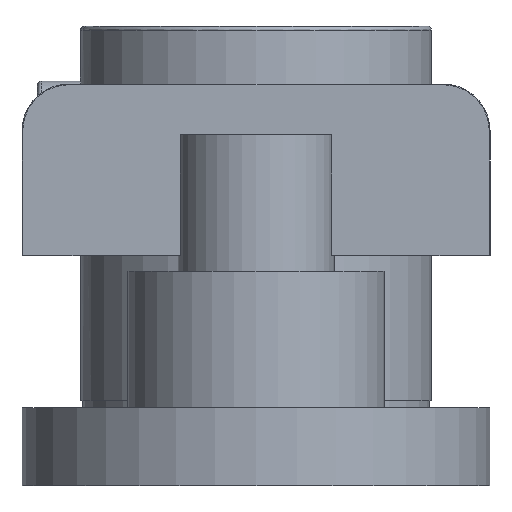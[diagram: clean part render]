
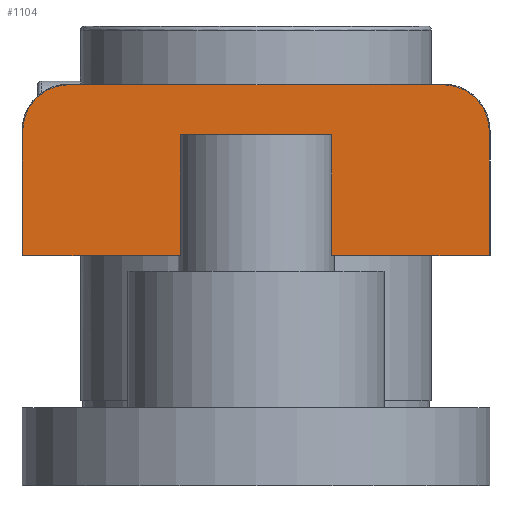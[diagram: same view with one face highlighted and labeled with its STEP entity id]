
A CAD part, left-side view. The second image highlights one B-rep face of the part: STEP entity #1104.
In plain terms, the highlighted planar face has unit normal (-1, 0, 0).
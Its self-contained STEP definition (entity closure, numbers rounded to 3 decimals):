
#717=CARTESIAN_POINT('',(-92.5,9.682,23.5));
#718=VERTEX_POINT('',#717);
#726=CARTESIAN_POINT('',(-92.5,29.9,23.5));
#727=VERTEX_POINT('',#726);
#728=CARTESIAN_POINT('',(-92.5,29.9,23.5));
#729=DIRECTION('',(0.0,-1.0,0.0));
#730=VECTOR('',#729,20.218);
#731=LINE('',#728,#730);
#732=EDGE_CURVE('',#727,#718,#731,.T.);
#748=CARTESIAN_POINT('',(-92.5,-9.682,23.5));
#749=VERTEX_POINT('',#748);
#750=CARTESIAN_POINT('',(-92.5,-29.9,23.5));
#751=VERTEX_POINT('',#750);
#752=CARTESIAN_POINT('',(-92.5,-9.682,23.5));
#753=DIRECTION('',(0.0,-1.0,0.0));
#754=VECTOR('',#753,20.218);
#755=LINE('',#752,#754);
#756=EDGE_CURVE('',#749,#751,#755,.T.);
#789=CARTESIAN_POINT('',(-92.5,29.9,39.5));
#790=VERTEX_POINT('',#789);
#791=CARTESIAN_POINT('',(-92.5,29.9,39.5));
#792=DIRECTION('',(0.0,0.0,-1.0));
#793=VECTOR('',#792,16.0);
#794=LINE('',#791,#793);
#795=EDGE_CURVE('',#790,#727,#794,.T.);
#1023=CARTESIAN_POINT('',(-92.5,-29.9,39.5));
#1024=VERTEX_POINT('',#1023);
#1032=CARTESIAN_POINT('',(-92.5,-24.,45.4));
#1033=VERTEX_POINT('',#1032);
#1040=CARTESIAN_POINT('',(-92.5,-24.0,39.5));
#1041=DIRECTION('',(-1.0,0.0,0.0));
#1042=DIRECTION('',(0.0,-1.0,0.0));
#1043=AXIS2_PLACEMENT_3D('',#1040,#1041,#1042);
#1044=CIRCLE('',#1043,5.9);
#1045=EDGE_CURVE('',#1024,#1033,#1044,.T.);
#1050=CARTESIAN_POINT('',(-92.5,32.89,22.405));
#1051=DIRECTION('',(-1.0,0.0,0.0));
#1052=DIRECTION('',(0.0,-1.0,0.0));
#1053=AXIS2_PLACEMENT_3D('',#1050,#1051,#1052);
#1054=PLANE('',#1053);
#1055=ORIENTED_EDGE('',*,*,#732,.T.);
#1056=CARTESIAN_POINT('',(-92.5,9.682,39.0));
#1057=VERTEX_POINT('',#1056);
#1058=CARTESIAN_POINT('',(-92.5,9.682,39.0));
#1059=DIRECTION('',(0.0,0.0,-1.0));
#1060=VECTOR('',#1059,15.5);
#1061=LINE('',#1058,#1060);
#1062=EDGE_CURVE('',#1057,#718,#1061,.T.);
#1063=ORIENTED_EDGE('',*,*,#1062,.F.);
#1064=CARTESIAN_POINT('',(-92.5,-9.682,39.0));
#1065=VERTEX_POINT('',#1064);
#1066=CARTESIAN_POINT('',(-92.5,-9.682,39.0));
#1067=DIRECTION('',(0.0,1.0,0.0));
#1068=VECTOR('',#1067,19.365);
#1069=LINE('',#1066,#1068);
#1070=EDGE_CURVE('',#1065,#1057,#1069,.T.);
#1071=ORIENTED_EDGE('',*,*,#1070,.F.);
#1072=CARTESIAN_POINT('',(-92.5,-9.682,39.0));
#1073=DIRECTION('',(0.0,0.0,-1.0));
#1074=VECTOR('',#1073,15.5);
#1075=LINE('',#1072,#1074);
#1076=EDGE_CURVE('',#1065,#749,#1075,.T.);
#1077=ORIENTED_EDGE('',*,*,#1076,.T.);
#1078=ORIENTED_EDGE('',*,*,#756,.T.);
#1079=CARTESIAN_POINT('',(-92.5,-29.9,23.5));
#1080=DIRECTION('',(0.0,0.0,1.0));
#1081=VECTOR('',#1080,16.0);
#1082=LINE('',#1079,#1081);
#1083=EDGE_CURVE('',#751,#1024,#1082,.T.);
#1084=ORIENTED_EDGE('',*,*,#1083,.T.);
#1085=ORIENTED_EDGE('',*,*,#1045,.T.);
#1086=CARTESIAN_POINT('',(-92.5,24.0,45.4));
#1087=VERTEX_POINT('',#1086);
#1088=CARTESIAN_POINT('',(-92.5,-24.,45.4));
#1089=DIRECTION('',(0.0,1.0,0.0));
#1090=VECTOR('',#1089,48.);
#1091=LINE('',#1088,#1090);
#1092=EDGE_CURVE('',#1033,#1087,#1091,.T.);
#1093=ORIENTED_EDGE('',*,*,#1092,.T.);
#1094=CARTESIAN_POINT('',(-92.5,24.0,39.5));
#1095=DIRECTION('',(-1.0,0.0,0.0));
#1096=DIRECTION('',(0.0,0.0,1.0));
#1097=AXIS2_PLACEMENT_3D('',#1094,#1095,#1096);
#1098=CIRCLE('',#1097,5.9);
#1099=EDGE_CURVE('',#1087,#790,#1098,.T.);
#1100=ORIENTED_EDGE('',*,*,#1099,.T.);
#1101=ORIENTED_EDGE('',*,*,#795,.T.);
#1102=EDGE_LOOP('',(#1055,#1063,#1071,#1077,#1078,#1084,#1085,#1093,#1100,#1101));
#1103=FACE_OUTER_BOUND('',#1102,.T.);
#1104=ADVANCED_FACE('',(#1103),#1054,.T.);
